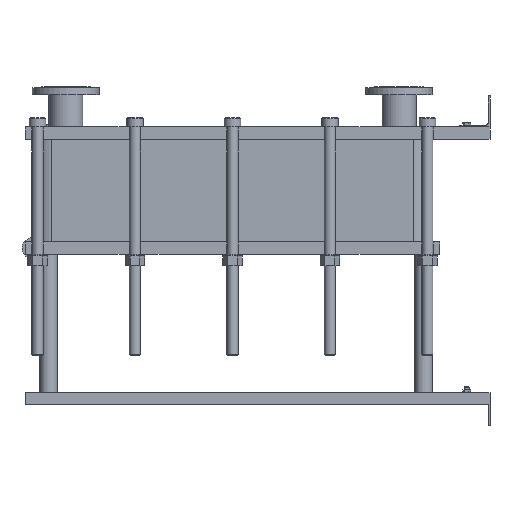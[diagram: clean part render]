
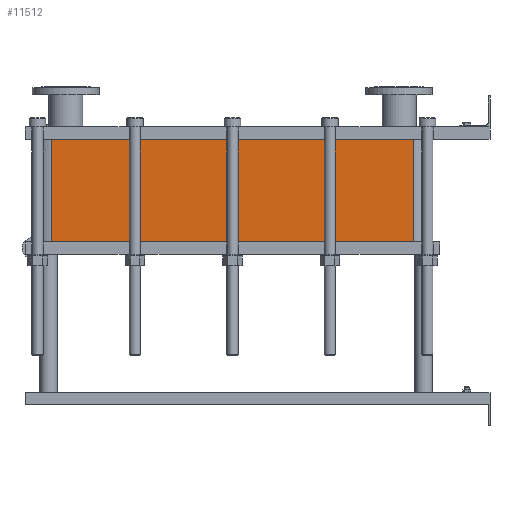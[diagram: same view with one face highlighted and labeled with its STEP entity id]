
A CAD part, left-side view. The second image highlights one B-rep face of the part: STEP entity #11512.
In plain terms, the highlighted planar face has unit normal (-1, 0, 0).
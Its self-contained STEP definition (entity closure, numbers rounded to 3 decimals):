
#1129=LINE('',#23232,#2102);
#1130=LINE('',#23236,#2103);
#1131=LINE('',#23238,#2104);
#1132=LINE('',#23239,#2105);
#2102=VECTOR('',#15887,10.);
#2103=VECTOR('',#15892,10.);
#2104=VECTOR('',#15893,10.);
#2105=VECTOR('',#15894,10.);
#3267=FACE_OUTER_BOUND('',#4093,.T.);
#4093=EDGE_LOOP('',(#10103,#10104,#10105,#10106));
#5642=VERTEX_POINT('',#23229);
#5643=VERTEX_POINT('',#23231);
#5644=VERTEX_POINT('',#23235);
#5645=VERTEX_POINT('',#23237);
#7159=EDGE_CURVE('',#5643,#5642,#1129,.T.);
#7161=EDGE_CURVE('',#5642,#5644,#1130,.T.);
#7162=EDGE_CURVE('',#5645,#5644,#1131,.T.);
#7163=EDGE_CURVE('',#5645,#5643,#1132,.T.);
#10103=ORIENTED_EDGE('',*,*,#7161,.T.);
#10104=ORIENTED_EDGE('',*,*,#7162,.F.);
#10105=ORIENTED_EDGE('',*,*,#7163,.T.);
#10106=ORIENTED_EDGE('',*,*,#7159,.T.);
#10857=PLANE('',#12751);
#11512=ADVANCED_FACE('',(#3267),#10857,.T.);
#12751=AXIS2_PLACEMENT_3D('',#23234,#15890,#15891);
#15887=DIRECTION('',(0.,0.,-1.));
#15890=DIRECTION('center_axis',(-1.,0.,0.));
#15891=DIRECTION('ref_axis',(0.,1.,0.));
#15892=DIRECTION('',(0.,-1.,0.));
#15893=DIRECTION('',(0.,0.,-1.));
#15894=DIRECTION('',(0.,1.,0.));
#23229=CARTESIAN_POINT('',(-200.,1414.,-331.2));
#23231=CARTESIAN_POINT('',(-200.,1414.,0.));
#23232=CARTESIAN_POINT('',(-200.,1414.,0.));
#23234=CARTESIAN_POINT('Origin',(-200.,248.,0.));
#23235=CARTESIAN_POINT('',(-200.,248.,-331.2));
#23236=CARTESIAN_POINT('',(-200.,539.5,-331.2));
#23237=CARTESIAN_POINT('',(-200.,248.,0.));
#23238=CARTESIAN_POINT('',(-200.,248.,0.));
#23239=CARTESIAN_POINT('',(-200.,248.,0.));
